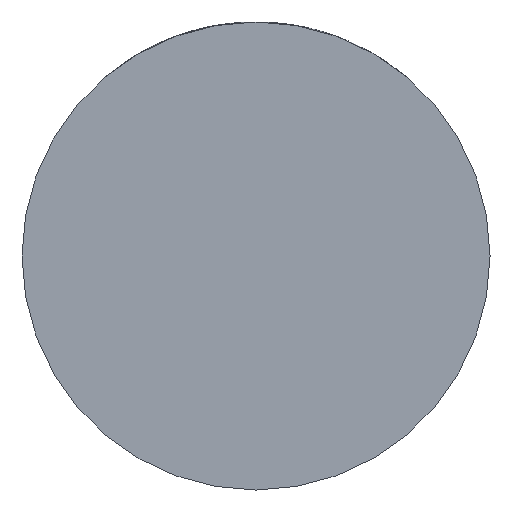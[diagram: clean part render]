
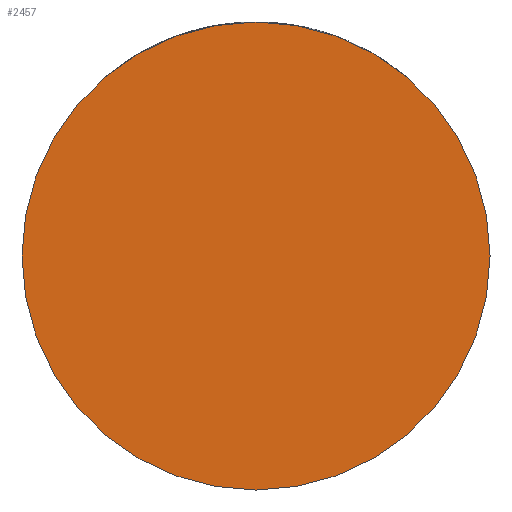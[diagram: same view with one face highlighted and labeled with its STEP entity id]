
A CAD part, front view. The second image highlights one B-rep face of the part: STEP entity #2457.
In plain terms, the highlighted planar face has unit normal (0, -1, 0).
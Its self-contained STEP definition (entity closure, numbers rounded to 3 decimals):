
#97 = CARTESIAN_POINT ( 'NONE',  ( -32., -28., 0. ) ) ;
#129 = DIRECTION ( 'NONE',  ( 0., -1., 0. ) ) ;
#461 = AXIS2_PLACEMENT_3D ( 'NONE', #1886, #129, #1502 ) ;
#633 = CARTESIAN_POINT ( 'NONE',  ( 0., -28., 0. ) ) ;
#987 = AXIS2_PLACEMENT_3D ( 'NONE', #4346, #1247, #4006 ) ;
#1029 = EDGE_CURVE ( 'NONE', #2380, #2484, #3191, .T. ) ;
#1247 = DIRECTION ( 'NONE',  ( 0., -1., 0. ) ) ;
#1306 = CIRCLE ( 'NONE', #2879, 32. ) ;
#1502 = DIRECTION ( 'NONE',  ( 1., 0., 0. ) ) ;
#1508 = EDGE_LOOP ( 'NONE', ( #2678, #1855 ) ) ;
#1587 = FACE_OUTER_BOUND ( 'NONE', #1508, .T. ) ;
#1855 = ORIENTED_EDGE ( 'NONE', *, *, #1029, .T. ) ;
#1886 = CARTESIAN_POINT ( 'NONE',  ( 0., -28., 0. ) ) ;
#2007 = DIRECTION ( 'NONE',  ( 0., -1., 0. ) ) ;
#2380 = VERTEX_POINT ( 'NONE', #3465 ) ;
#2457 = ADVANCED_FACE ( 'NONE', ( #1587 ), #2962, .T. ) ;
#2484 = VERTEX_POINT ( 'NONE', #97 ) ;
#2678 = ORIENTED_EDGE ( 'NONE', *, *, #4000, .T. ) ;
#2879 = AXIS2_PLACEMENT_3D ( 'NONE', #633, #2007, #3430 ) ;
#2962 = PLANE ( 'NONE',  #987 ) ;
#3191 = CIRCLE ( 'NONE', #461, 32. ) ;
#3430 = DIRECTION ( 'NONE',  ( 1., 0., 0. ) ) ;
#3465 = CARTESIAN_POINT ( 'NONE',  ( 32., -28., 0. ) ) ;
#4000 = EDGE_CURVE ( 'NONE', #2484, #2380, #1306, .T. ) ;
#4006 = DIRECTION ( 'NONE',  ( 1., 0., 0. ) ) ;
#4346 = CARTESIAN_POINT ( 'NONE',  ( 0., -28., 0. ) ) ;
